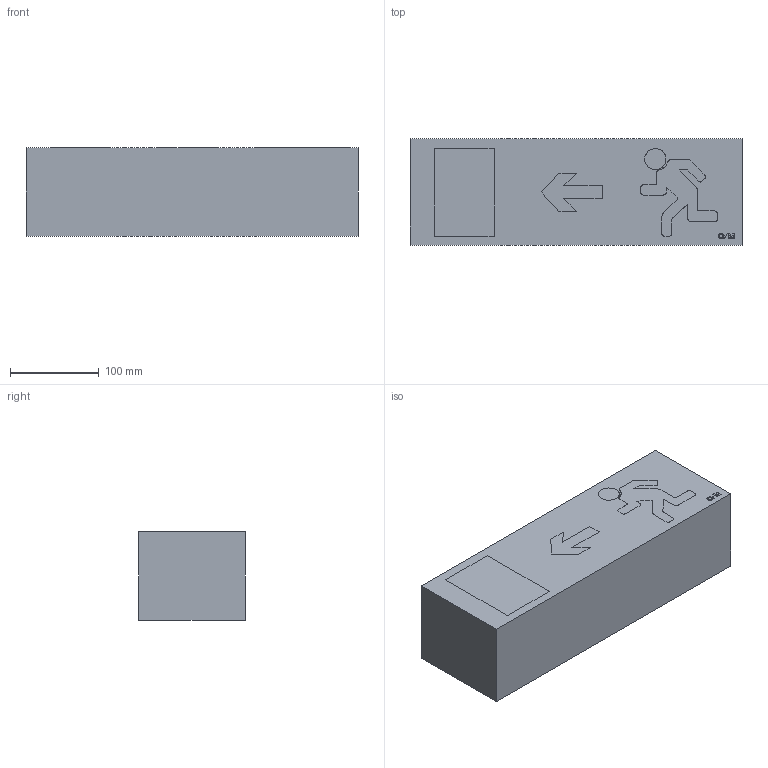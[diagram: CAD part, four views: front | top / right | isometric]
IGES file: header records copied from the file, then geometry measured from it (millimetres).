
Start section: SolidWorks IGES file using analytic representation for surfaces
Global section: file name: C:\Users\joaom\Desktop\02_3D.2D\01_2020\04_Safe\01_AS\02_Surface\DWG_3D_AS_Saliente.IGS; native system: SolidWorks 2020; preprocessor: SolidWorks 2020; author: joaom; date: 201109.185635; units: millimetre
Bounding box: 375 x 120 x 100 mm (x, y, z)
Surface area: 189000 mm2 (no closed solid volume)
Topology: 0 solids, 0 shells, 14 faces, 749 edges, 749 vertices
Faces by surface type: bspline 14
